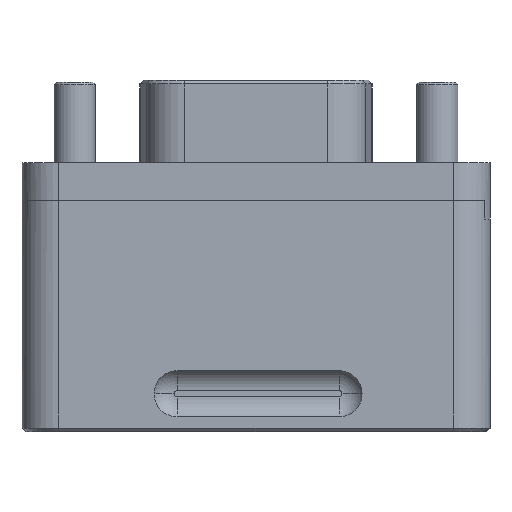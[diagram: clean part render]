
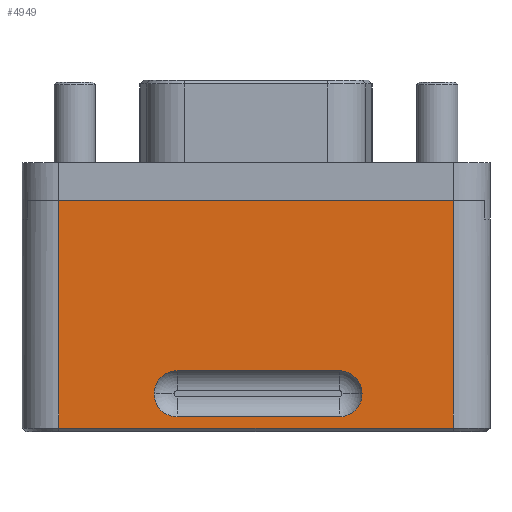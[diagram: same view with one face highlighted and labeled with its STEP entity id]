
A CAD part, front view. The second image highlights one B-rep face of the part: STEP entity #4949.
In plain terms, the highlighted planar face has unit normal (0, -1, 0).
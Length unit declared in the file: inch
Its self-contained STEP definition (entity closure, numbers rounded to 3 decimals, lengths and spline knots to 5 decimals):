
#85 = EDGE_CURVE ( 'NONE', #4508, #4527, #1035, .T. ) ;
#98 = EDGE_CURVE ( 'NONE', #4503, #4532, #2637, .T. ) ;
#111 = ORIENTED_EDGE ( 'NONE', *, *, #2606, .F. ) ;
#112 = ORIENTED_EDGE ( 'NONE', *, *, #98, .T. ) ;
#113 = ORIENTED_EDGE ( 'NONE', *, *, #3635, .T. ) ;
#115 = ORIENTED_EDGE ( 'NONE', *, *, #85, .T. ) ;
#117 = ORIENTED_EDGE ( 'NONE', *, *, #3574, .T. ) ;
#119 = ORIENTED_EDGE ( 'NONE', *, *, #4823, .T. ) ;
#125 = ORIENTED_EDGE ( 'NONE', *, *, #2607, .F. ) ;
#129 = ORIENTED_EDGE ( 'NONE', *, *, #2608, .F. ) ;
#133 = ORIENTED_EDGE ( 'NONE', *, *, #3632, .T. ) ;
#134 = ORIENTED_EDGE ( 'NONE', *, *, #3631, .T. ) ;
#147 = ORIENTED_EDGE ( 'NONE', *, *, #2610, .T. ) ;
#320 = ORIENTED_EDGE ( 'NONE', *, *, #3598, .T. ) ;
#1035 = LINE ( 'NONE', #6836, #1042 ) ;
#1042 = VECTOR ( 'NONE', #6841, 39.37008 ) ;
#1332 = CARTESIAN_POINT ( 'NONE',  ( 0., -0.2375, -0.102 ) ) ;
#1333 = DIRECTION ( 'NONE',  ( -1., 0., 0. ) ) ;
#1337 = CARTESIAN_POINT ( 'NONE',  ( 0.5325, -0.2375, -0.727 ) ) ;
#1338 = DIRECTION ( 'NONE',  ( 0., 0., -1. ) ) ;
#1339 = CARTESIAN_POINT ( 'NONE',  ( 0., -0.2375, -0.717 ) ) ;
#1340 = DIRECTION ( 'NONE',  ( -1., 0., 0. ) ) ;
#1341 = CARTESIAN_POINT ( 'NONE',  ( -0.5325, -0.2375, -0.727 ) ) ;
#1342 = DIRECTION ( 'NONE',  ( 0., 0., 1. ) ) ;
#1526 = CARTESIAN_POINT ( 'NONE',  ( 0.22471, -0.2375, -0.624 ) ) ;
#1527 = DIRECTION ( 'NONE',  ( 0., 1., 0. ) ) ;
#1528 = DIRECTION ( 'NONE',  ( 1., 0., 0. ) ) ;
#1600 = CARTESIAN_POINT ( 'NONE',  ( 0.22471, -0.2375, -0.625 ) ) ;
#1601 = DIRECTION ( 'NONE',  ( 0., 1., 0. ) ) ;
#1602 = DIRECTION ( 'NONE',  ( 1., 0., 0. ) ) ;
#1684 = AXIS2_PLACEMENT_3D ( 'NONE', #1526, #1527, #1528 ) ;
#1692 = AXIS2_PLACEMENT_3D ( 'NONE', #1600, #1601, #1602 ) ;
#1705 = AXIS2_PLACEMENT_3D ( 'NONE', #3028, #3029, #3030 ) ;
#2230 = AXIS2_PLACEMENT_3D ( 'NONE', #6871, #6872, #6873 ) ;
#2606 = EDGE_CURVE ( 'NONE', #4492, #4491, #5045, .T. ) ;
#2607 = EDGE_CURVE ( 'NONE', #4491, #4730, #5047, .T. ) ;
#2608 = EDGE_CURVE ( 'NONE', #4730, #4494, #5049, .T. ) ;
#2610 = EDGE_CURVE ( 'NONE', #4492, #4494, #5053, .T. ) ;
#2637 = CIRCLE ( 'NONE', #2230, 0.062 ) ;
#3017 = CARTESIAN_POINT ( 'NONE',  ( 0.28671, -0.2375, -0.67575 ) ) ;
#3018 = DIRECTION ( 'NONE',  ( 0., 0., -1. ) ) ;
#3019 = CARTESIAN_POINT ( 'NONE',  ( 0., -0.2375, -0.687 ) ) ;
#3020 = DIRECTION ( 'NONE',  ( -1., 0., 0. ) ) ;
#3028 = CARTESIAN_POINT ( 'NONE',  ( -0.21329, -0.2375, -0.624 ) ) ;
#3029 = DIRECTION ( 'NONE',  ( 0., 1., 0. ) ) ;
#3030 = DIRECTION ( 'NONE',  ( 1., 0., 0. ) ) ;
#3574 = EDGE_CURVE ( 'NONE', #4527, #4537, #5143, .T. ) ;
#3598 = EDGE_CURVE ( 'NONE', #4539, #4510, #5175, .T. ) ;
#3631 = EDGE_CURVE ( 'NONE', #4537, #4539, #5228, .T. ) ;
#3632 = EDGE_CURVE ( 'NONE', #4510, #4503, #5230, .T. ) ;
#3635 = EDGE_CURVE ( 'NONE', #4531, #4508, #5225, .T. ) ;
#4185 = VECTOR ( 'NONE', #5612, 39.37008 ) ;
#4202 = LINE ( 'NONE', #5611, #4185 ) ;
#4382 = FACE_OUTER_BOUND ( 'NONE', #6466, .T. ) ;
#4388 = FACE_BOUND ( 'NONE', #6502, .T. ) ;
#4491 = VERTEX_POINT ( 'NONE', #5410 ) ;
#4492 = VERTEX_POINT ( 'NONE', #5411 ) ;
#4494 = VERTEX_POINT ( 'NONE', #5413 ) ;
#4503 = VERTEX_POINT ( 'NONE', #5422 ) ;
#4508 = VERTEX_POINT ( 'NONE', #5427 ) ;
#4510 = VERTEX_POINT ( 'NONE', #5429 ) ;
#4527 = VERTEX_POINT ( 'NONE', #5446 ) ;
#4531 = VERTEX_POINT ( 'NONE', #5450 ) ;
#4532 = VERTEX_POINT ( 'NONE', #5451 ) ;
#4537 = VERTEX_POINT ( 'NONE', #5456 ) ;
#4539 = VERTEX_POINT ( 'NONE', #5458 ) ;
#4730 = VERTEX_POINT ( 'NONE', #5574 ) ;
#4823 = EDGE_CURVE ( 'NONE', #4532, #4531, #4202, .T. ) ;
#4949 = ADVANCED_FACE ( 'NONE', ( #4382, #4388 ), #6183, .T. ) ;
#5045 = LINE ( 'NONE', #1337, #5048 ) ;
#5047 = LINE ( 'NONE', #1339, #5050 ) ;
#5048 = VECTOR ( 'NONE', #1338, 39.37008 ) ;
#5049 = LINE ( 'NONE', #1341, #5052 ) ;
#5050 = VECTOR ( 'NONE', #1340, 39.37008 ) ;
#5052 = VECTOR ( 'NONE', #1342, 39.37008 ) ;
#5053 = LINE ( 'NONE', #1332, #5055 ) ;
#5055 = VECTOR ( 'NONE', #1333, 39.37008 ) ;
#5143 = CIRCLE ( 'NONE', #1684, 0.062 ) ;
#5175 = CIRCLE ( 'NONE', #1692, 0.062 ) ;
#5225 = CIRCLE ( 'NONE', #1705, 0.062 ) ;
#5228 = LINE ( 'NONE', #3017, #5231 ) ;
#5230 = LINE ( 'NONE', #3019, #5233 ) ;
#5231 = VECTOR ( 'NONE', #3018, 39.37008 ) ;
#5233 = VECTOR ( 'NONE', #3020, 39.37008 ) ;
#5410 = CARTESIAN_POINT ( 'NONE',  ( 0.5325, -0.2375, -0.717 ) ) ;
#5411 = CARTESIAN_POINT ( 'NONE',  ( 0.5325, -0.2375, -0.102 ) ) ;
#5413 = CARTESIAN_POINT ( 'NONE',  ( -0.5325, -0.2375, -0.102 ) ) ;
#5422 = CARTESIAN_POINT ( 'NONE',  ( -0.21329, -0.2375, -0.687 ) ) ;
#5427 = CARTESIAN_POINT ( 'NONE',  ( -0.21329, -0.2375, -0.562 ) ) ;
#5429 = CARTESIAN_POINT ( 'NONE',  ( 0.22471, -0.2375, -0.687 ) ) ;
#5446 = CARTESIAN_POINT ( 'NONE',  ( 0.22471, -0.2375, -0.562 ) ) ;
#5450 = CARTESIAN_POINT ( 'NONE',  ( -0.27529, -0.2375, -0.624 ) ) ;
#5451 = CARTESIAN_POINT ( 'NONE',  ( -0.27529, -0.2375, -0.625 ) ) ;
#5456 = CARTESIAN_POINT ( 'NONE',  ( 0.28671, -0.2375, -0.624 ) ) ;
#5458 = CARTESIAN_POINT ( 'NONE',  ( 0.28671, -0.2375, -0.625 ) ) ;
#5574 = CARTESIAN_POINT ( 'NONE',  ( -0.5325, -0.2375, -0.717 ) ) ;
#5611 = CARTESIAN_POINT ( 'NONE',  ( -0.27529, -0.2375, -0.67575 ) ) ;
#5612 = DIRECTION ( 'NONE',  ( 0., 0., 1. ) ) ;
#5900 = AXIS2_PLACEMENT_3D ( 'NONE', #6182, #6188, #6189 ) ;
#6182 = CARTESIAN_POINT ( 'NONE',  ( 0., -0.2375, -0.727 ) ) ;
#6183 = PLANE ( 'NONE',  #5900 ) ;
#6188 = DIRECTION ( 'NONE',  ( 0., -1., 0. ) ) ;
#6189 = DIRECTION ( 'NONE',  ( 1., 0., 0. ) ) ;
#6466 = EDGE_LOOP ( 'NONE', ( #147, #129, #125, #111 ) ) ;
#6502 = EDGE_LOOP ( 'NONE', ( #113, #115, #117, #134, #320, #133, #112, #119 ) ) ;
#6836 = CARTESIAN_POINT ( 'NONE',  ( 0., -0.2375, -0.562 ) ) ;
#6841 = DIRECTION ( 'NONE',  ( 1., 0., 0. ) ) ;
#6871 = CARTESIAN_POINT ( 'NONE',  ( -0.21329, -0.2375, -0.625 ) ) ;
#6872 = DIRECTION ( 'NONE',  ( 0., 1., 0. ) ) ;
#6873 = DIRECTION ( 'NONE',  ( 1., 0., 0. ) ) ;
